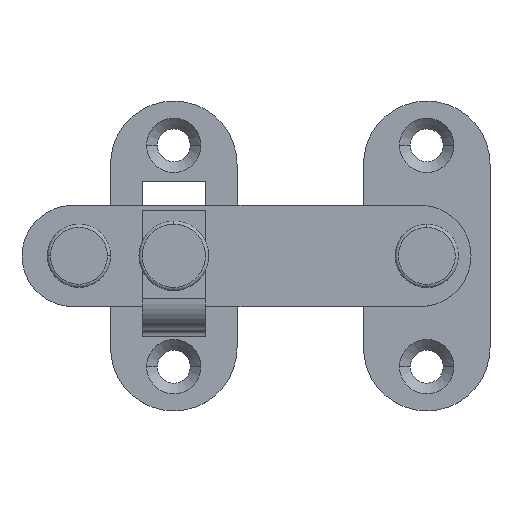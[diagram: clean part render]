
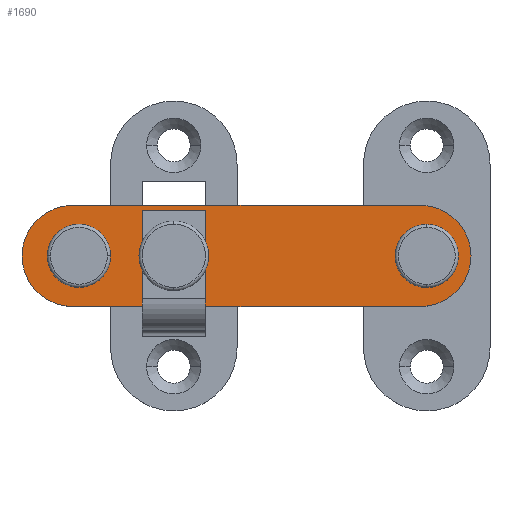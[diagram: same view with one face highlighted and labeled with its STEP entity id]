
A CAD part, top view. The second image highlights one B-rep face of the part: STEP entity #1690.
In plain terms, the highlighted planar face has unit normal (0, 0, 1).
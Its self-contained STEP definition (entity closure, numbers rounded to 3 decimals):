
#31 = LINE ( 'NONE', #2042, #1659 ) ;
#53 = PLANE ( 'NONE',  #2150 ) ;
#180 = CIRCLE ( 'NONE', #1033, 3.5 ) ;
#186 = VERTEX_POINT ( 'NONE', #1640 ) ;
#209 = VERTEX_POINT ( 'NONE', #387 ) ;
#214 = DIRECTION ( 'NONE',  ( 0., 0., 1. ) ) ;
#243 = EDGE_LOOP ( 'NONE', ( #577, #459 ) ) ;
#244 = CIRCLE ( 'NONE', #2049, 8. ) ;
#264 = CARTESIAN_POINT ( 'NONE',  ( 0., 5., 2. ) ) ;
#371 = CARTESIAN_POINT ( 'NONE',  ( 0., 0., 2. ) ) ;
#387 = CARTESIAN_POINT ( 'NONE',  ( -51.5, 0., 2. ) ) ;
#388 = VERTEX_POINT ( 'NONE', #886 ) ;
#410 = ORIENTED_EDGE ( 'NONE', *, *, #2072, .T. ) ;
#459 = ORIENTED_EDGE ( 'NONE', *, *, #951, .F. ) ;
#531 = AXIS2_PLACEMENT_3D ( 'NONE', #371, #1395, #1973 ) ;
#544 = AXIS2_PLACEMENT_3D ( 'NONE', #1593, #1198, #2002 ) ;
#577 = ORIENTED_EDGE ( 'NONE', *, *, #1045, .F. ) ;
#754 = ORIENTED_EDGE ( 'NONE', *, *, #2435, .T. ) ;
#755 = CARTESIAN_POINT ( 'NONE',  ( -56., -8., 2. ) ) ;
#790 = DIRECTION ( 'NONE',  ( 0., 0., 1. ) ) ;
#802 = DIRECTION ( 'NONE',  ( -1., 0., 0. ) ) ;
#886 = CARTESIAN_POINT ( 'NONE',  ( -56., 8., 2. ) ) ;
#951 = EDGE_CURVE ( 'NONE', #2028, #209, #180, .T. ) ;
#999 = CARTESIAN_POINT ( 'NONE',  ( -1., 8., 2. ) ) ;
#1019 = DIRECTION ( 'NONE',  ( 0., -1., 0. ) ) ;
#1033 = AXIS2_PLACEMENT_3D ( 'NONE', #1578, #790, #2180 ) ;
#1034 = CARTESIAN_POINT ( 'NONE',  ( -56., 0., 2. ) ) ;
#1037 = CARTESIAN_POINT ( 'NONE',  ( -56., -8., 2. ) ) ;
#1045 = EDGE_CURVE ( 'NONE', #209, #2028, #1491, .T. ) ;
#1073 = EDGE_CURVE ( 'NONE', #1421, #186, #1454, .T. ) ;
#1084 = DIRECTION ( 'NONE',  ( 0., 0., 1. ) ) ;
#1167 = LINE ( 'NONE', #755, #2507 ) ;
#1177 = DIRECTION ( 'NONE',  ( 1., 0., 0. ) ) ;
#1178 = DIRECTION ( 'NONE',  ( 0., 0., 1. ) ) ;
#1184 = VERTEX_POINT ( 'NONE', #2011 ) ;
#1198 = DIRECTION ( 'NONE',  ( 0., 0., 1. ) ) ;
#1211 = EDGE_CURVE ( 'NONE', #2013, #388, #31, .T. ) ;
#1214 = DIRECTION ( 'NONE',  ( 1., 0., 0. ) ) ;
#1249 = FACE_OUTER_BOUND ( 'NONE', #1993, .T. ) ;
#1252 = ORIENTED_EDGE ( 'NONE', *, *, #1490, .T. ) ;
#1351 = AXIS2_PLACEMENT_3D ( 'NONE', #1034, #1605, #1177 ) ;
#1389 = CIRCLE ( 'NONE', #1722, 5. ) ;
#1395 = DIRECTION ( 'NONE',  ( 0., 0., 1. ) ) ;
#1403 = ORIENTED_EDGE ( 'NONE', *, *, #1211, .T. ) ;
#1421 = VERTEX_POINT ( 'NONE', #264 ) ;
#1422 = ORIENTED_EDGE ( 'NONE', *, *, #1693, .F. ) ;
#1431 = CARTESIAN_POINT ( 'NONE',  ( -56., 0., 2. ) ) ;
#1454 = CIRCLE ( 'NONE', #531, 5. ) ;
#1490 = EDGE_CURVE ( 'NONE', #1718, #2013, #1673, .T. ) ;
#1491 = CIRCLE ( 'NONE', #2381, 3.5 ) ;
#1503 = CARTESIAN_POINT ( 'NONE',  ( -1., -8., 2. ) ) ;
#1578 = CARTESIAN_POINT ( 'NONE',  ( -55., 0., 2. ) ) ;
#1593 = CARTESIAN_POINT ( 'NONE',  ( -1., 0., 2. ) ) ;
#1596 = ORIENTED_EDGE ( 'NONE', *, *, #1766, .T. ) ;
#1597 = EDGE_LOOP ( 'NONE', ( #1422, #1763 ) ) ;
#1605 = DIRECTION ( 'NONE',  ( 0., 0., 1. ) ) ;
#1617 = VERTEX_POINT ( 'NONE', #1037 ) ;
#1640 = CARTESIAN_POINT ( 'NONE',  ( 0., -5., 2. ) ) ;
#1659 = VECTOR ( 'NONE', #802, 1000. ) ;
#1673 = CIRCLE ( 'NONE', #544, 8. ) ;
#1690 = ADVANCED_FACE ( 'NONE', ( #2439, #1249, #2050 ), #53, .T. ) ;
#1693 = EDGE_CURVE ( 'NONE', #186, #1421, #1389, .T. ) ;
#1718 = VERTEX_POINT ( 'NONE', #1503 ) ;
#1722 = AXIS2_PLACEMENT_3D ( 'NONE', #2018, #214, #1019 ) ;
#1726 = CIRCLE ( 'NONE', #1351, 8. ) ;
#1763 = ORIENTED_EDGE ( 'NONE', *, *, #1073, .F. ) ;
#1766 = EDGE_CURVE ( 'NONE', #388, #1184, #244, .T. ) ;
#1973 = DIRECTION ( 'NONE',  ( 0., -1., 0. ) ) ;
#1993 = EDGE_LOOP ( 'NONE', ( #1596, #410, #754, #1252, #1403 ) ) ;
#2002 = DIRECTION ( 'NONE',  ( 1., 0., 0. ) ) ;
#2011 = CARTESIAN_POINT ( 'NONE',  ( -64., 0., 2. ) ) ;
#2013 = VERTEX_POINT ( 'NONE', #999 ) ;
#2018 = CARTESIAN_POINT ( 'NONE',  ( 0., 0., 2. ) ) ;
#2028 = VERTEX_POINT ( 'NONE', #2047 ) ;
#2042 = CARTESIAN_POINT ( 'NONE',  ( -1., 8., 2. ) ) ;
#2047 = CARTESIAN_POINT ( 'NONE',  ( -58.5, 0., 2. ) ) ;
#2049 = AXIS2_PLACEMENT_3D ( 'NONE', #2523, #1084, #2510 ) ;
#2050 = FACE_BOUND ( 'NONE', #243, .T. ) ;
#2072 = EDGE_CURVE ( 'NONE', #1184, #1617, #1726, .T. ) ;
#2125 = DIRECTION ( 'NONE',  ( 1., 0., 0. ) ) ;
#2150 = AXIS2_PLACEMENT_3D ( 'NONE', #1431, #2235, #1214 ) ;
#2180 = DIRECTION ( 'NONE',  ( 1., 0., 0. ) ) ;
#2235 = DIRECTION ( 'NONE',  ( 0., 0., 1. ) ) ;
#2381 = AXIS2_PLACEMENT_3D ( 'NONE', #2559, #1178, #2599 ) ;
#2435 = EDGE_CURVE ( 'NONE', #1617, #1718, #1167, .T. ) ;
#2439 = FACE_BOUND ( 'NONE', #1597, .T. ) ;
#2507 = VECTOR ( 'NONE', #2125, 1000. ) ;
#2510 = DIRECTION ( 'NONE',  ( 1., 0., 0. ) ) ;
#2523 = CARTESIAN_POINT ( 'NONE',  ( -56., 0., 2. ) ) ;
#2559 = CARTESIAN_POINT ( 'NONE',  ( -55., 0., 2. ) ) ;
#2599 = DIRECTION ( 'NONE',  ( 1., 0., 0. ) ) ;
